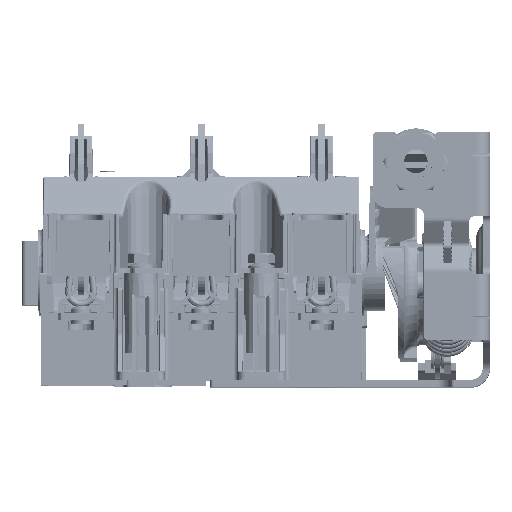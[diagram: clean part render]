
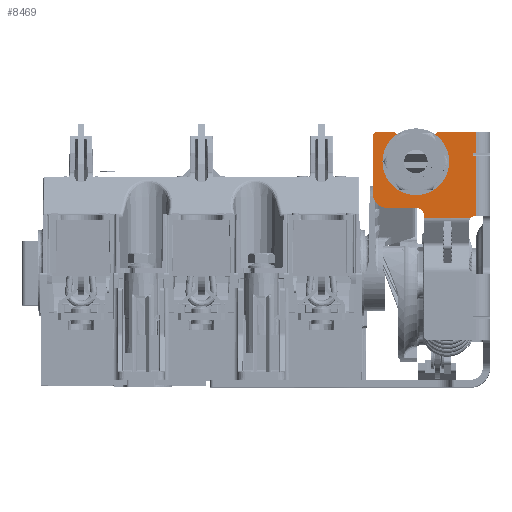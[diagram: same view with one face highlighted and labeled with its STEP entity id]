
A CAD part, top view. The second image highlights one B-rep face of the part: STEP entity #8469.
In plain terms, the highlighted planar face has unit normal (0, 0, 1).
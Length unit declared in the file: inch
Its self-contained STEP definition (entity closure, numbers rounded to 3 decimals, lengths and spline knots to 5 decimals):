
#3617=DIRECTION('',(-0.707,-0.707,0.));
#3618=VECTOR('',#3617,0.08485);
#3619=CARTESIAN_POINT('',(-0.853,2.65,7.171));
#3620=LINE('',#3619,#3618);
#3624=DIRECTION('',(1.,0.,0.));
#3625=VECTOR('',#3624,0.733);
#3626=CARTESIAN_POINT('',(-0.853,2.65,7.171));
#3627=LINE('',#3626,#3625);
#3631=DIRECTION('',(-1.,0.,0.));
#3632=VECTOR('',#3631,0.04486);
#3633=CARTESIAN_POINT('',(-0.12,2.27,7.171));
#3634=LINE('',#3633,#3632);
#3638=CARTESIAN_POINT('',(-0.16486,2.27,7.171));
#3639=CARTESIAN_POINT('',(-0.16888,2.27,7.171));
#3640=CARTESIAN_POINT('',(-0.17475,2.26782,7.171));
#3641=CARTESIAN_POINT('',(-0.179,2.26402,7.171));
#3642=CARTESIAN_POINT('',(-0.179,2.26,7.171));
#3647=DIRECTION('',(0.,1.,0.));
#3648=VECTOR('',#3647,0.04);
#3649=CARTESIAN_POINT('',(-0.179,2.22,7.171));
#3650=LINE('',#3649,#3648);
#3654=CARTESIAN_POINT('',(-0.16486,2.21,7.171));
#3655=CARTESIAN_POINT('',(-0.16888,2.21,7.171));
#3656=CARTESIAN_POINT('',(-0.17475,2.21218,7.171));
#3657=CARTESIAN_POINT('',(-0.179,2.21598,7.171));
#3658=CARTESIAN_POINT('',(-0.179,2.22,7.171));
#3663=DIRECTION('',(-1.,0.,0.));
#3664=VECTOR('',#3663,0.04486);
#3665=CARTESIAN_POINT('',(-0.12,2.21,7.171));
#3666=LINE('',#3665,#3664);
#3670=DIRECTION('',(-1.,0.,0.));
#3671=VECTOR('',#3670,0.0075);
#3672=CARTESIAN_POINT('',(-0.12,1.093,7.171));
#3673=LINE('',#3672,#3671);
#3677=CARTESIAN_POINT('',(-0.1275,0.962,7.171));
#3678=DIRECTION('',(0.,0.,-1.));
#3679=DIRECTION('',(-0.769,0.639,0.));
#3680=AXIS2_PLACEMENT_3D('',#3677,#3678,#3679);
#3685=DIRECTION('',(-1.,0.,0.));
#3686=VECTOR('',#3685,0.87125);
#3687=CARTESIAN_POINT('',(-0.22825,1.04573,7.171));
#3688=LINE('',#3687,#3686);
#3692=DIRECTION('',(0.,1.,0.));
#3693=VECTOR('',#3692,0.04347);
#3694=CARTESIAN_POINT('',(-1.0995,1.04573,7.171));
#3695=LINE('',#3694,#3693);
#3699=DIRECTION('',(1.,0.,0.));
#3700=VECTOR('',#3699,0.555);
#3701=CARTESIAN_POINT('',(-1.8045,1.2392,7.171));
#3702=LINE('',#3701,#3700);
#3706=CARTESIAN_POINT('',(-1.8045,1.4892,7.171));
#3707=DIRECTION('',(0.,0.,1.));
#3708=DIRECTION('',(-1.,0.,0.));
#3709=AXIS2_PLACEMENT_3D('',#3706,#3707,#3708);
#3714=DIRECTION('',(0.,-1.,0.));
#3715=VECTOR('',#3714,1.1008);
#3716=CARTESIAN_POINT('',(-2.0545,2.59,7.171));
#3717=LINE('',#3716,#3715);
#3721=CARTESIAN_POINT('',(-1.9945,2.59,7.171));
#3722=DIRECTION('',(0.,0.,1.));
#3723=DIRECTION('',(0.,1.,0.));
#3724=AXIS2_PLACEMENT_3D('',#3721,#3722,#3723);
#3729=DIRECTION('',(1.,0.,0.));
#3730=VECTOR('',#3729,0.3415);
#3731=CARTESIAN_POINT('',(-1.9945,2.65,7.171));
#3732=LINE('',#3731,#3730);
#3736=DIRECTION('',(-0.707,0.707,0.));
#3737=VECTOR('',#3736,0.08485);
#3738=CARTESIAN_POINT('',(-1.593,2.59,7.171));
#3739=LINE('',#3738,#3737);
#3743=DIRECTION('',(0.,-1.,0.));
#3744=VECTOR('',#3743,0.49);
#3745=CARTESIAN_POINT('',(-1.593,2.59,7.171));
#3746=LINE('',#3745,#3744);
#3750=CARTESIAN_POINT('',(-1.253,2.1,7.171));
#3751=DIRECTION('',(0.,0.,-1.));
#3752=DIRECTION('',(1.,0.,0.));
#3753=AXIS2_PLACEMENT_3D('',#3750,#3751,#3752);
#3758=DIRECTION('',(0.,-1.,0.));
#3759=VECTOR('',#3758,0.49);
#3760=CARTESIAN_POINT('',(-0.913,2.59,7.171));
#3761=LINE('',#3760,#3759);
#4258=DIRECTION('',(0.,-1.,0.));
#4259=VECTOR('',#4258,1.117);
#4260=CARTESIAN_POINT('',(-0.12,2.21,7.171));
#4261=LINE('',#4260,#4259);
#4273=DIRECTION('',(0.,-1.,0.));
#4274=VECTOR('',#4273,0.38);
#4275=CARTESIAN_POINT('',(-0.12,2.65,7.171));
#4276=LINE('',#4275,#4274);
#4690=CARTESIAN_POINT('',(-1.2495,1.0892,7.171));
#4691=DIRECTION('',(0.,0.,-1.));
#4692=DIRECTION('',(0.,1.,0.));
#4693=AXIS2_PLACEMENT_3D('',#4690,#4691,#4692);
#4930=CARTESIAN_POINT('',(-0.1275,1.093,7.171));
#4932=VERTEX_POINT('',#4930);
#5005=CARTESIAN_POINT('',(-1.0995,1.04573,7.171));
#5006=VERTEX_POINT('',#5005);
#5033=CARTESIAN_POINT('',(-0.22825,1.04573,7.171));
#5034=VERTEX_POINT('',#5033);
#5112=CARTESIAN_POINT('',(-0.179,2.26,7.171));
#5114=VERTEX_POINT('',#5112);
#5116=CARTESIAN_POINT('',(-0.16486,2.27,7.171));
#5118=VERTEX_POINT('',#5116);
#5119=CARTESIAN_POINT('',(-0.179,2.22,7.171));
#5121=VERTEX_POINT('',#5119);
#5123=CARTESIAN_POINT('',(-0.16486,2.21,7.171));
#5125=VERTEX_POINT('',#5123);
#5393=CARTESIAN_POINT('',(-0.12,1.093,7.171));
#5394=VERTEX_POINT('',#5393);
#5395=CARTESIAN_POINT('',(-0.12,2.65,7.171));
#5397=VERTEX_POINT('',#5395);
#5415=CARTESIAN_POINT('',(-0.913,2.1,7.171));
#5416=CARTESIAN_POINT('',(-1.593,2.1,7.171));
#5417=VERTEX_POINT('',#5415);
#5418=VERTEX_POINT('',#5416);
#5423=CARTESIAN_POINT('',(-0.12,2.21,7.171));
#5424=VERTEX_POINT('',#5423);
#5425=CARTESIAN_POINT('',(-0.12,2.27,7.171));
#5426=VERTEX_POINT('',#5425);
#5456=CARTESIAN_POINT('',(-1.0995,1.0892,7.171));
#5458=VERTEX_POINT('',#5456);
#5460=CARTESIAN_POINT('',(-1.2495,1.2392,7.171));
#5462=VERTEX_POINT('',#5460);
#5467=CARTESIAN_POINT('',(-2.0545,1.4892,7.171));
#5468=VERTEX_POINT('',#5467);
#5469=CARTESIAN_POINT('',(-1.8045,1.2392,7.171));
#5470=VERTEX_POINT('',#5469);
#5475=CARTESIAN_POINT('',(-1.9945,2.65,7.171));
#5476=VERTEX_POINT('',#5475);
#5477=CARTESIAN_POINT('',(-2.0545,2.59,7.171));
#5478=VERTEX_POINT('',#5477);
#5491=CARTESIAN_POINT('',(-0.853,2.65,7.171));
#5492=VERTEX_POINT('',#5491);
#5493=CARTESIAN_POINT('',(-0.913,2.59,7.171));
#5494=VERTEX_POINT('',#5493);
#5499=CARTESIAN_POINT('',(-1.593,2.59,7.171));
#5500=VERTEX_POINT('',#5499);
#5501=CARTESIAN_POINT('',(-1.653,2.65,7.171));
#5502=VERTEX_POINT('',#5501);
#8419=CARTESIAN_POINT('',(7.0525,0.,7.171));
#8420=DIRECTION('',(0.,0.,1.));
#8421=DIRECTION('',(0.,-1.,0.));
#8422=AXIS2_PLACEMENT_3D('',#8419,#8420,#8421);
#8423=PLANE('',#8422);
#8424=ORIENTED_EDGE('',*,*,#8263,.F.);
#8425=ORIENTED_EDGE('',*,*,#8250,.T.);
#8427=ORIENTED_EDGE('',*,*,#8426,.T.);
#8429=ORIENTED_EDGE('',*,*,#8428,.T.);
#8431=ORIENTED_EDGE('',*,*,#8430,.T.);
#8433=ORIENTED_EDGE('',*,*,#8432,.F.);
#8435=ORIENTED_EDGE('',*,*,#8434,.F.);
#8437=ORIENTED_EDGE('',*,*,#8436,.F.);
#8439=ORIENTED_EDGE('',*,*,#8438,.T.);
#8441=ORIENTED_EDGE('',*,*,#8440,.T.);
#8443=ORIENTED_EDGE('',*,*,#8442,.F.);
#8445=ORIENTED_EDGE('',*,*,#8444,.T.);
#8446=ORIENTED_EDGE('',*,*,#8378,.T.);
#8448=ORIENTED_EDGE('',*,*,#8447,.F.);
#8450=ORIENTED_EDGE('',*,*,#8449,.F.);
#8452=ORIENTED_EDGE('',*,*,#8451,.F.);
#8454=ORIENTED_EDGE('',*,*,#8453,.F.);
#8456=ORIENTED_EDGE('',*,*,#8455,.F.);
#8458=ORIENTED_EDGE('',*,*,#8457,.T.);
#8460=ORIENTED_EDGE('',*,*,#8459,.F.);
#8462=ORIENTED_EDGE('',*,*,#8461,.T.);
#8464=ORIENTED_EDGE('',*,*,#8463,.F.);
#8466=ORIENTED_EDGE('',*,*,#8465,.F.);
#8467=EDGE_LOOP('',(#8424,#8425,#8427,#8429,#8431,#8433,#8435,#8437,#8439,#8441,
#8443,#8445,#8446,#8448,#8450,#8452,#8454,#8456,#8458,#8460,#8462,#8464,#8466));
#8468=FACE_OUTER_BOUND('',#8467,.F.);
#3643=B_SPLINE_CURVE_WITH_KNOTS('',3,(#3638,#3639,#3640,#3641,#3642),
.UNSPECIFIED.,.F.,.F.,(4,1,4),(0.,0.5,1.),.UNSPECIFIED.);
#3659=B_SPLINE_CURVE_WITH_KNOTS('',3,(#3654,#3655,#3656,#3657,#3658),
.UNSPECIFIED.,.F.,.F.,(4,1,4),(0.,0.5,1.),.UNSPECIFIED.);
#3681=CIRCLE('',#3680,0.131);
#3710=CIRCLE('',#3709,0.25);
#3725=CIRCLE('',#3724,0.06);
#3754=CIRCLE('',#3753,0.34);
#4694=CIRCLE('',#4693,0.15);
#8250=EDGE_CURVE('',#5492,#5397,#3627,.T.);
#8263=EDGE_CURVE('',#5492,#5494,#3620,.T.);
#8378=EDGE_CURVE('',#5006,#5458,#3695,.T.);
#8426=EDGE_CURVE('',#5397,#5426,#4276,.T.);
#8428=EDGE_CURVE('',#5426,#5118,#3634,.T.);
#8430=EDGE_CURVE('',#5118,#5114,#3643,.T.);
#8432=EDGE_CURVE('',#5121,#5114,#3650,.T.);
#8434=EDGE_CURVE('',#5125,#5121,#3659,.T.);
#8436=EDGE_CURVE('',#5424,#5125,#3666,.T.);
#8438=EDGE_CURVE('',#5424,#5394,#4261,.T.);
#8440=EDGE_CURVE('',#5394,#4932,#3673,.T.);
#8442=EDGE_CURVE('',#5034,#4932,#3681,.T.);
#8444=EDGE_CURVE('',#5034,#5006,#3688,.T.);
#8447=EDGE_CURVE('',#5462,#5458,#4694,.T.);
#8449=EDGE_CURVE('',#5470,#5462,#3702,.T.);
#8451=EDGE_CURVE('',#5468,#5470,#3710,.T.);
#8453=EDGE_CURVE('',#5478,#5468,#3717,.T.);
#8455=EDGE_CURVE('',#5476,#5478,#3725,.T.);
#8457=EDGE_CURVE('',#5476,#5502,#3732,.T.);
#8459=EDGE_CURVE('',#5500,#5502,#3739,.T.);
#8461=EDGE_CURVE('',#5500,#5418,#3746,.T.);
#8463=EDGE_CURVE('',#5417,#5418,#3754,.T.);
#8465=EDGE_CURVE('',#5494,#5417,#3761,.T.);
#8469=ADVANCED_FACE('',(#8468),#8423,.T.);
